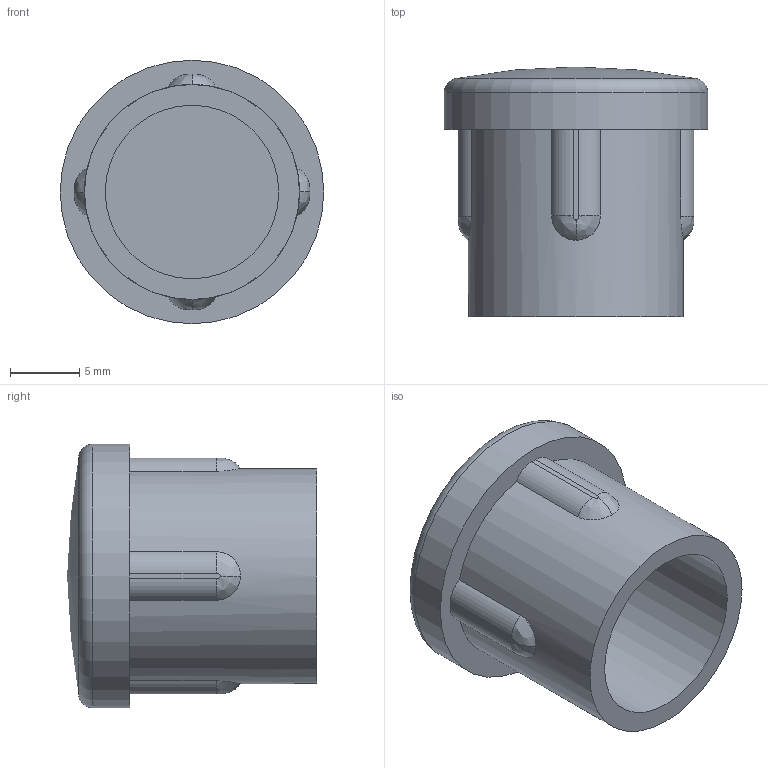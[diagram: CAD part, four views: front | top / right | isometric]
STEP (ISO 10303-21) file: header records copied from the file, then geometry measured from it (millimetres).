
FILE_DESCRIPTION(/* description */ (''),/* implementation_level */ '2;1');
FILE_NAME(/* name */ '\\NAS\db20\PR5-19\DR_PR5-19.stp',/* time_stamp */ '2017-09-25T13:16:17+09:00',/* author */ ('user'),/* organization */ (''),/* preprocessor_version */ 'ST-DEVELOPER v15.6',/* originating_system */ 'Autodesk Inventor 2015',/* authorisation */ '');
FILE_SCHEMA (('AUTOMOTIVE_DESIGN { 1 0 10303 214 3 1 1 }'));
Length unit declared in the file: millimetre
Products named in the file (1): DR_PR5-19
Bounding box: 19 x 18 x 19 mm (x, y, z)
Volume: 2076.6 mm3; surface area: 1965.1 mm2
Topology: 1 solids, 1 shells, 28 faces, 70 edges, 46 vertices
Faces by surface type: cylinder 11, bspline 8, plane 7, torus 1, sphere 1
Full cylindrical faces by diameter (mm): 12.5 x1, 15.5 x1, 19 x1
Entity records: 1412 total; most frequent: CARTESIAN_POINT 757, ORIENTED_EDGE 132, DIRECTION 122, EDGE_CURVE 66, AXIS2_PLACEMENT_3D 51, VERTEX_POINT 46, EDGE_LOOP 34, CIRCLE 30
